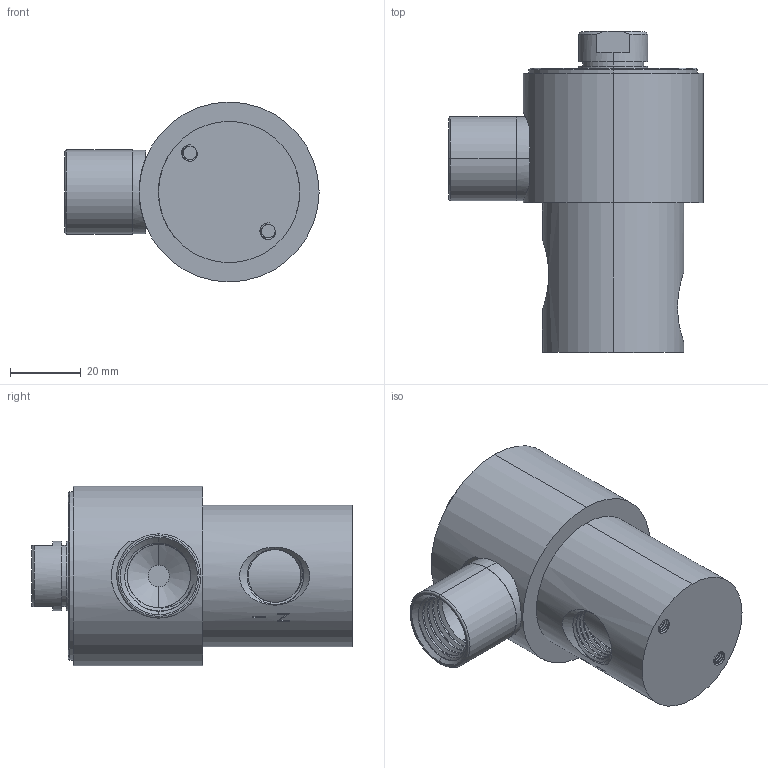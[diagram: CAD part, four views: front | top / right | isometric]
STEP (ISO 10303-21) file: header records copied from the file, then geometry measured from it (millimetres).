
FILE_DESCRIPTION (( 'STEP AP203' ), '1' );
FILE_NAME ('S301X_C.STEP', '2023-10-24T13:45:00', ( '' ), ( '' ), 'SwSTEP 2.0', 'SolidWorks 2023', '' );
FILE_SCHEMA (( 'CONFIG_CONTROL_DESIGN' ));
Length unit declared in the file: inch
Products named in the file (1): S301X_C
Bounding box: 71.75 x 90.58 x 50.8 mm (x, y, z)
Volume: 133086.3 mm3; surface area: 20682 mm2
Topology: 1 solids, 1 shells, 172 faces, 462 edges, 306 vertices
Faces by surface type: cylinder 84, bspline 43, plane 30, cone 13, torus 2
Entity records: 19379 total; most frequent: CARTESIAN_POINT 15798, ORIENTED_EDGE 924, DIRECTION 509, EDGE_CURVE 462, VERTEX_POINT 306, AXIS2_PLACEMENT_3D 196, EDGE_LOOP 186, FACE_OUTER_BOUND 172
